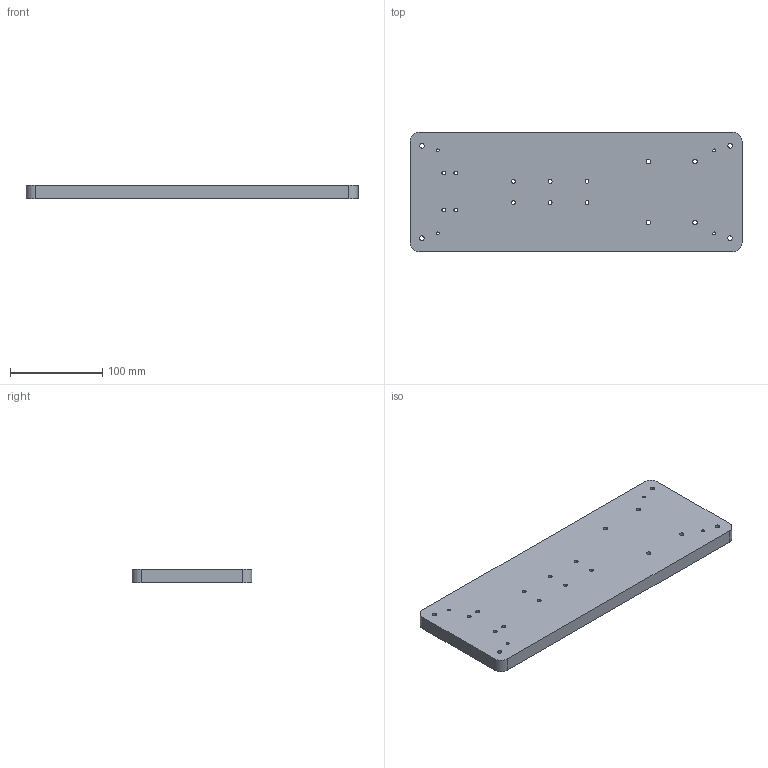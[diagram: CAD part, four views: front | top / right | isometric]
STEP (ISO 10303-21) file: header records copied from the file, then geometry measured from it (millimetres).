
FILE_DESCRIPTION(('CATIA V5 STEP Exchange'),'2;1');
FILE_NAME('D:\姚明阳\1、工装图纸\AGZ036 按压速降阀管箍锁紧工装\AGZ036.01_V1.stp','2025-08-27T06:35:10+00:00',('none'),('none'),'CATIA Version 5 Release 21 GA (IN-10)','CATIA V5 STEP AP214','none');
FILE_SCHEMA(('AUTOMOTIVE_DESIGN { 1 0 10303 214 1 1 1 1 }'));
Length unit declared in the file: millimetre
Products named in the file (1): AGZ036.01_V1
Bounding box: 360 x 130 x 15 mm (x, y, z)
Volume: 695925.1 mm3; surface area: 111645.4 mm2
Topology: 1 solids, 1 shells, 54 faces, 156 edges, 104 vertices
Faces by surface type: cylinder 48, plane 6
Entity records: 1740 total; most frequent: ORIENTED_EDGE 312, CARTESIAN_POINT 293, DIRECTION 220, EDGE_CURVE 156, AXIS2_PLACEMENT_3D 129, VERTEX_POINT 104, EDGE_LOOP 98, CIRCLE 96
